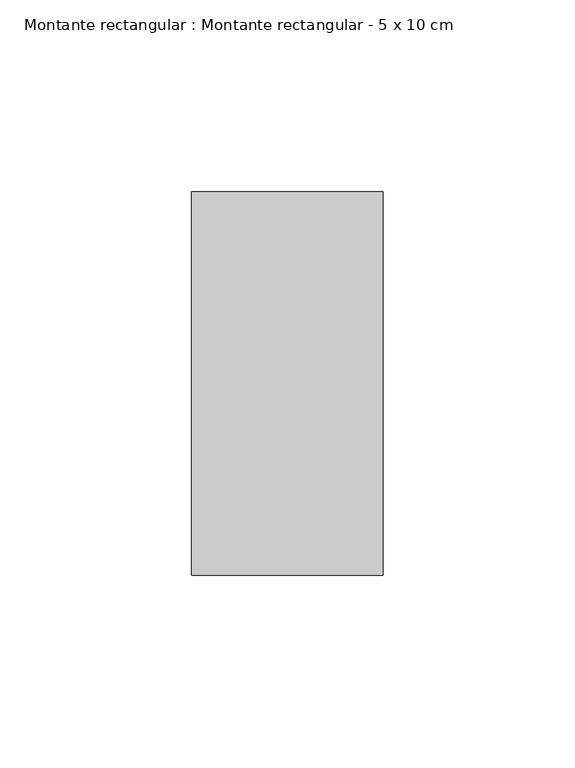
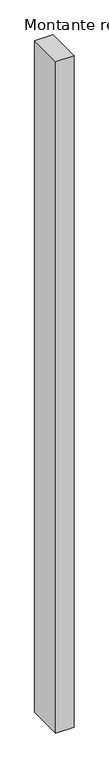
"""IFC4 building model written with IfcOpenShell, lengths in millimetres: member geometry, Montante rectangular : Montante rectangular - 5 x 10 cm."""

import ifcopenshell
import ifcopenshell.guid

model = None  # the IFC model being written
_history = None  # IfcOwnerHistory: only IFC2X3 demands one
_inside = {}  # id of a spatial element -> (the spatial element, [elements in it])
_under = {}  # id of a project, library or spatial element -> (it, [spatial elements below it])
_declared = {}  # id of a project -> (the project, [libraries it declares])
_typed = {}  # id of a type object -> (the type object, [elements of that type])
_made_of = {}  # id of a material, layer set ... -> (it, [elements and type objects made of it])


def new_model(schema):
    """Start an empty IFC model of exactly this schema.

    Asked for "IFC4X3", IfcOpenShell would pick the latest addendum, in which some entities
    have other attributes; the version numbers below select the first issue.
    IFC2X3 requires an IfcOwnerHistory on every rooted entity: one is made here for all.
    """
    global model, _history
    if schema == "IFC4X3":
        model = ifcopenshell.file(schema_version=(4, 3, 0, 0))
    else:
        model = ifcopenshell.file(schema=schema)
    _inside.clear()
    _under.clear()
    _declared.clear()
    _typed.clear()
    _made_of.clear()
    _history = None
    if model.schema == "IFC2X3":
        org = make("IfcOrganization", Name="unknown")
        user = make(
            "IfcPersonAndOrganization",
            ThePerson=make("IfcPerson", FamilyName="unknown"),
            TheOrganization=org,
        )
        app = make(
            "IfcApplication",
            ApplicationDeveloper=org,
            Version="unknown",
            ApplicationFullName="unknown",
            ApplicationIdentifier="unknown",
        )
        _history = make(
            "IfcOwnerHistory",
            OwningUser=user,
            OwningApplication=app,
            ChangeAction="ADDED",
            CreationDate=0,
        )
    return model


def make(cls, **values):
    """One entity of the class cls with the attributes given. An attribute that is None is left unset."""
    return model.create_entity(
        cls, **{name: value for name, value in values.items() if value is not None}
    )


def rooted(cls, **values):
    """An entity with a GlobalId (a new one), such as an element, a storey or a relation."""
    return make(cls, GlobalId=ifcopenshell.guid.new(), OwnerHistory=_history, **values)


def si_unit(unit_type, name, prefix=None):
    """IfcSIUnit, for example si_unit("LENGTHUNIT", "METRE", prefix="MILLI")."""
    return make("IfcSIUnit", UnitType=unit_type, Prefix=prefix, Name=name)


def assignment(units):
    """IfcUnitAssignment: the units of a project."""
    return None if units is None else make("IfcUnitAssignment", Units=units)


def point(xyz):
    """IfcCartesianPoint."""
    return None if xyz is None else make("IfcCartesianPoint", Coordinates=xyz)


def direction(xyz):
    """IfcDirection."""
    return None if xyz is None else make("IfcDirection", DirectionRatios=xyz)


def frame(location, z_axis=None, x_axis=None):
    """IfcAxis2Placement3D, a coordinate frame: its origin and axes. An axis left out is left unset."""
    return make(
        "IfcAxis2Placement3D",
        Location=point(location),
        Axis=direction(z_axis),
        RefDirection=direction(x_axis),
    )


def origin():
    """The frame at (0, 0, 0) with its axes left unset."""
    return frame((0.0, 0.0, 0.0))


def place(relative_to, where):
    """IfcLocalPlacement: puts the frame where relative to a parent placement (None: the world)."""
    return make(
        "IfcLocalPlacement", PlacementRelTo=relative_to, RelativePlacement=where
    )


def context(
    kind, dimensions, precision=None, world=None, true_north=None, identifier=None
):
    """IfcGeometricRepresentationContext, for example the 3D "Model" context."""
    return make(
        "IfcGeometricRepresentationContext",
        ContextIdentifier=identifier,
        ContextType=kind,
        CoordinateSpaceDimension=dimensions,
        Precision=precision,
        WorldCoordinateSystem=world,
        TrueNorth=true_north,
    )


def project(units=None, contexts=None):
    """IfcProject with its units and contexts."""
    return rooted(
        "IfcProject",
        Name="project",
        RepresentationContexts=contexts,
        UnitsInContext=assignment(units),
    )


def spatial(cls, under=None, at=None, **own):
    """A site, building, storey or space (cls), placed at a placement, below another one or the project."""
    s = rooted(cls, ObjectPlacement=at, **own)
    if under is not None:
        _under.setdefault(under.id(), (under, []))[1].append(s)
    return s


def polyline(points):
    """IfcPolyline through the points."""
    return make("IfcPolyline", Points=[point(p) for p in points])


def outline(outer, holes=None, kind="AREA"):
    """IfcArbitraryClosedProfileDef: a profile drawn as a closed curve; with holes, ...WithVoids."""
    if holes is None:
        return make("IfcArbitraryClosedProfileDef", ProfileType=kind, OuterCurve=outer)
    return make(
        "IfcArbitraryProfileDefWithVoids",
        ProfileType=kind,
        OuterCurve=outer,
        InnerCurves=holes,
    )


def extrude(swept, where, along, depth):
    """IfcExtrudedAreaSolid: the profile swept, set in the frame where, extruded along a direction by depth."""
    return make(
        "IfcExtrudedAreaSolid",
        SweptArea=swept,
        Position=where,
        ExtrudedDirection=direction(along),
        Depth=depth,
    )


def shape(context_of_items, identifier, shape_type, items):
    """IfcShapeRepresentation: the items that make up one representation, for example the "Body"."""
    return make(
        "IfcShapeRepresentation",
        ContextOfItems=context_of_items,
        RepresentationIdentifier=identifier,
        RepresentationType=shape_type,
        Items=items,
    )


def source(mapping_origin, context_of_items, identifier, shape_type, items):
    """IfcRepresentationMap: a shape defined once, which mapped items show again and again."""
    return make(
        "IfcRepresentationMap",
        MappingOrigin=mapping_origin,
        MappedRepresentation=shape(context_of_items, identifier, shape_type, items),
    )


def transform(
    local_origin,
    x_axis=None,
    y_axis=None,
    z_axis=None,
    scale=None,
    scale2=None,
    scale3=None,
    uniform=True,
):
    """IfcCartesianTransformationOperator3D, or its non-uniform kind. x_axis, y_axis, z_axis: its Axis1, 2, 3."""
    if uniform:
        return make(
            "IfcCartesianTransformationOperator3D",
            Axis1=direction(x_axis),
            Axis2=direction(y_axis),
            LocalOrigin=point(local_origin),
            Scale=scale,
            Axis3=direction(z_axis),
        )
    return make(
        "IfcCartesianTransformationOperator3DnonUniform",
        Axis1=direction(x_axis),
        Axis2=direction(y_axis),
        LocalOrigin=point(local_origin),
        Scale=scale,
        Axis3=direction(z_axis),
        Scale2=scale2,
        Scale3=scale3,
    )


def mapped(mapping_source, mapping_target):
    """IfcMappedItem: shows the shape of a source again, moved by a transform."""
    return make(
        "IfcMappedItem", MappingSource=mapping_source, MappingTarget=mapping_target
    )


def made_of(thing, what):
    """Note that an element or type object is made of a material, layer set ...; save() writes the relation."""
    if what is not None:
        _made_of.setdefault(what.id(), (what, []))[1].append(thing)
    return thing


def element(
    cls,
    number,
    at=None,
    inside=None,
    cuts=None,
    type_object=None,
    material=None,
    context=None,
    identifier="Body",
    shape_type=None,
    held_by="IfcProductDefinitionShape",
    body=None,
    shapes=None,
    **own,
):
    """One element of the class cls, such as IfcWall. Its Tag is "e" and its number.

    at: its placement. inside: the storey or other place that contains it. cuts: it is an
    opening in that element (IfcRelVoidsElement). A single representation is given by context,
    identifier, shape_type and body (its items); several are given by shapes. held_by: the class
    of the entity that holds the representations. save() writes the other relations.
    """
    e = rooted(cls, Tag="e%d" % number, ObjectPlacement=at, **own)
    if body is not None:
        shapes = [shape(context, identifier, shape_type, body)]
    if shapes is not None:
        e.Representation = make(held_by, Representations=shapes)
    if inside is not None:
        _inside.setdefault(inside.id(), (inside, []))[1].append(e)
    if cuts is not None:
        rooted(
            "IfcRelVoidsElement", RelatingBuildingElement=cuts, RelatedOpeningElement=e
        )
    if type_object is not None:
        _typed.setdefault(type_object.id(), (type_object, []))[1].append(e)
    return made_of(e, material)


def aggregate(whole, parts):
    """IfcRelAggregates: a whole, such as a stair, and the parts it consists of."""
    return rooted("IfcRelAggregates", RelatingObject=whole, RelatedObjects=parts)


def save(model, path):
    """Write the relations noted so far, then the file.

    IfcRelAggregates (storeys below a building ...), IfcRelContainedInSpatialStructure (elements
    in a storey), IfcRelDefinesByType, IfcRelAssociatesMaterial and IfcRelDeclares: one each for
    every whole, place, type object, material and project.
    """
    for whole, parts in _under.values():
        aggregate(whole, parts)
    for where, things in _inside.values():
        rooted(
            "IfcRelContainedInSpatialStructure",
            RelatedElements=things,
            RelatingStructure=where,
        )
    for kind, things in _typed.values():
        rooted("IfcRelDefinesByType", RelatedObjects=things, RelatingType=kind)
    for what, things in _made_of.values():
        rooted("IfcRelAssociatesMaterial", RelatedObjects=things, RelatingMaterial=what)
    for by, libraries in _declared.values():
        rooted("IfcRelDeclares", RelatingContext=by, RelatedDefinitions=libraries)
    model.write(path)


def montante_rectangular_montante_rectangular_5_x_10_cm_22dbe9bf(model_context):
    return source(origin(), model_context, "Body", "SweptSolid", [
        extrude(outline(polyline([(-50.0, 50.0), (0.0, 50.0), (0.0, -50.0), (-50.0, -50.0), (-50.0, 50.0)])), frame((0.0, 0.0, -1951.1454326), z_axis=(0.0, 0.0, 1.0), x_axis=(1.0, 0.0, 0.0)), (0.0, 0.0, 1.0), 1951.1454326),
    ])


if __name__ == "__main__":
    model = new_model("IFC4")
    model_context = context("Model", 3, world=origin())
    ifc_project = project(units=[si_unit("LENGTHUNIT", "METRE", prefix="MILLI")], contexts=[model_context])
    site = spatial("IfcSite", under=ifc_project)
    building = spatial("IfcBuilding", under=site)
    placement = place(None, origin())
    montante_rectangular_montante_rectangular_5_x_10_cm_shape = montante_rectangular_montante_rectangular_5_x_10_cm_22dbe9bf(model_context)
    element("IfcMember", 1, ObjectType="Montante rectangular : Montante rectangular - 5 x 10 cm", at=placement, inside=building, context=model_context, shape_type="MappedRepresentation", body=[
        mapped(montante_rectangular_montante_rectangular_5_x_10_cm_shape, transform((0.0, 0.0, 0.0), x_axis=(1.0, 0.0, 0.0), y_axis=(0.0, 1.0, 0.0), z_axis=(0.0, 0.0, 1.0))),
    ])
    save(model, "model.ifc")
